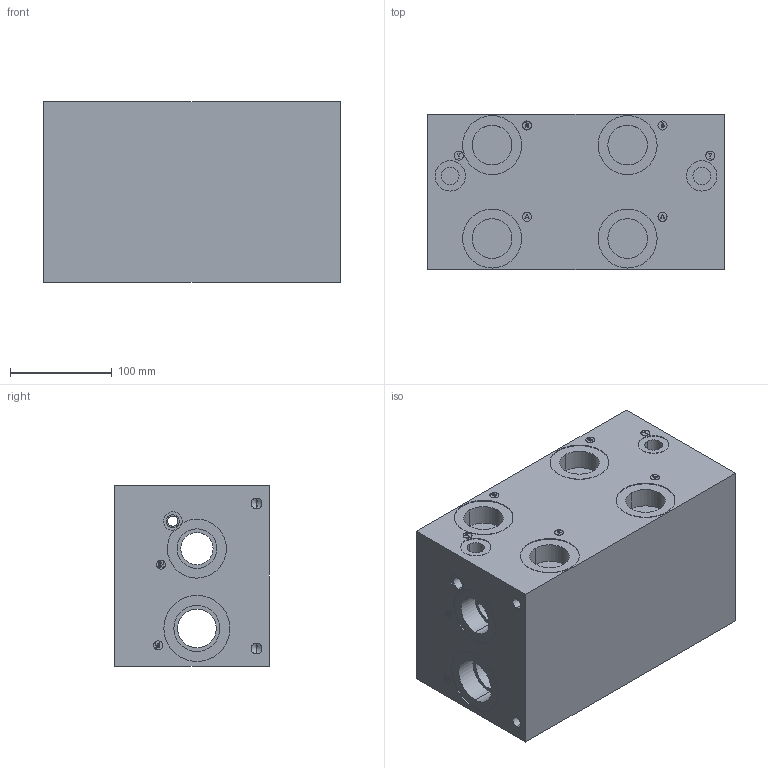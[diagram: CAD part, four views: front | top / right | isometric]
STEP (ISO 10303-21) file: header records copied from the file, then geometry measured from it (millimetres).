
FILE_DESCRIPTION (( 'STEP AP203' ), '1' );
FILE_NAME ('BMR-AHP08S5-02-1_Z.STEP', '2015-01-06T16:24:12', ( '' ), ( '' ), 'SwSTEP 2.0', 'SolidWorks 2014', '' );
FILE_SCHEMA (( 'CONFIG_CONTROL_DESIGN' ));
Length unit declared in the file: inch
Products named in the file (1): BMR-AHP08S5-02-1_Z
Bounding box: 292.1 x 152.4 x 177.8 mm (x, y, z)
Volume: 7099893.3 mm3; surface area: 351665.1 mm2
Topology: 1 solids, 1 shells, 478 faces, 1152 edges, 712 vertices
Faces by surface type: plane 210, cylinder 166, cone 64, bspline 38
Entity records: 15719 total; most frequent: CARTESIAN_POINT 4765, DIRECTION 2230, ORIENTED_EDGE 2176, EDGE_CURVE 1088, AXIS2_PLACEMENT_3D 777, VERTEX_POINT 712, VECTOR 676, LINE 676
